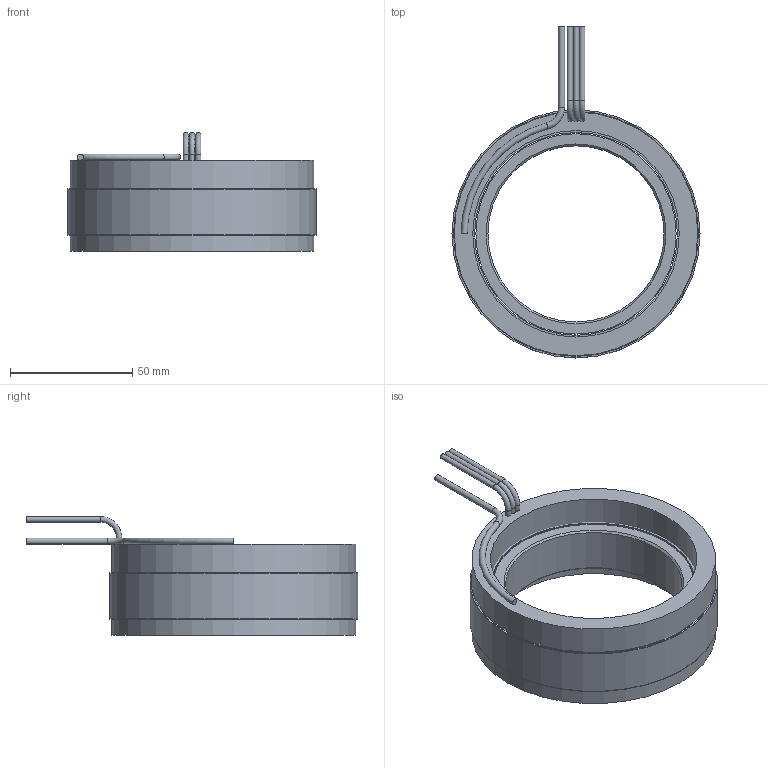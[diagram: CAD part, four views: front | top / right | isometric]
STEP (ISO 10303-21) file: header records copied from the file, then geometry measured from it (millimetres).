
FILE_DESCRIPTION (( 'STEP AP214' ), '1' );
FILE_NAME ('6100395-02.STEP', '2020-12-15T17:33:40', ( '' ), ( '' ), 'SwSTEP 2.0', 'SolidWorks 2016', '' );
FILE_SCHEMA (( 'AUTOMOTIVE_DESIGN' ));
Length unit declared in the file: inch
Products named in the file (10): 4400104-00; 4500561-XX_4500561-02; COMP4500561-XX(COIL)_COMP4500561-02(COIL); 4450192-XX_4450192-02; 4250383-XX_4250383-02; 4150181-XX_4150181-02; 6100395-02; 4600568-00
Assembly tree (10 placements, depth 4):
  6100395-02
    4250383-XX_4250383-02
      4150181-XX_4150181-02
    4500561-XX_4500561-02
      4450192-XX_4450192-02
        4450192-XX_4450192-02
        4400104-00
        4400104-00
        4600568-00  x2
      COMP4500561-XX(COIL)_COMP4500561-02(COIL)
Bounding box: 101.6 x 135.89 x 48.64 mm (x, y, z)
Volume: 158702.6 mm3; surface area: 76704.3 mm2
Topology: 8 solids, 8 shells, 47 faces, 74 edges, 46 vertices
Faces by surface type: cylinder 21, plane 19, torus 5, cone 2
Full cylindrical faces by diameter (mm): 2.286 x6, 2.54 x1, 72.136 x1, 82.042 x1, 83.058 x5, 84.582 x1, 99.822 x1, 100.33 x2, 101.6 x3
Entity records: 1305 total; most frequent: DIRECTION 202, CARTESIAN_POINT 143, AXIS2_PLACEMENT_3D 101, EDGE_LOOP 84, ORIENTED_EDGE 84, FACE_OUTER_BOUND 67, ADVANCED_FACE 43, CIRCLE 42
